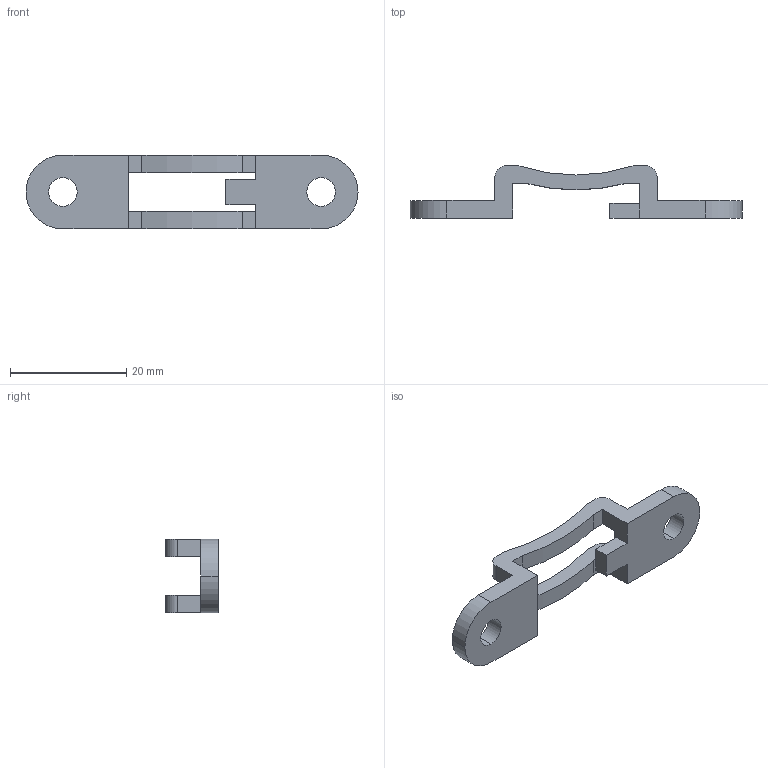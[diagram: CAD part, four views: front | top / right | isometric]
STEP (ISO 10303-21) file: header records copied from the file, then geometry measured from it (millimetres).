
FILE_DESCRIPTION (( 'STEP AP214' ), '1' );
FILE_NAME ('5076_V01_REF_PRT_FEMALE_AR-CLIP.STEP', '2025-07-07T15:10:08', ( '' ), ( '' ), 'SwSTEP 2.0', 'SolidWorks 2025', '' );
FILE_SCHEMA (( 'AUTOMOTIVE_DESIGN' ));
Length unit declared in the file: inch
Products named in the file (1): 5076_V01_REF_PRT_FEMALE_AR-CLIP
Bounding box: 57.15 x 9.04 x 12.7 mm (x, y, z)
Volume: 1765.4 mm3; surface area: 1990.7 mm2
Topology: 1 solids, 1 shells, 42 faces, 126 edges, 84 vertices
Faces by surface type: plane 26, cylinder 16
Entity records: 1461 total; most frequent: CARTESIAN_POINT 253, ORIENTED_EDGE 252, DIRECTION 244, EDGE_CURVE 126, VECTOR 94, LINE 94, VERTEX_POINT 84, AXIS2_PLACEMENT_3D 75
